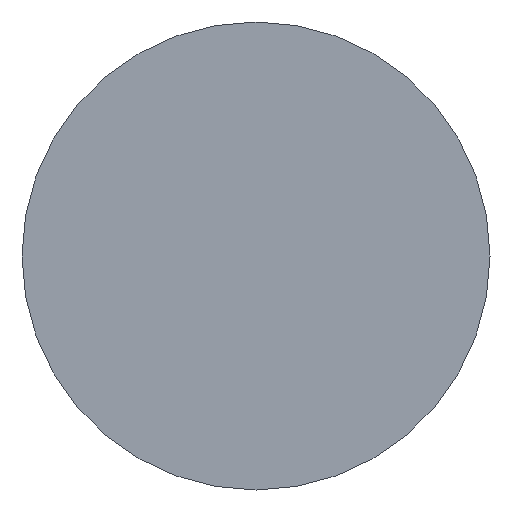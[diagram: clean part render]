
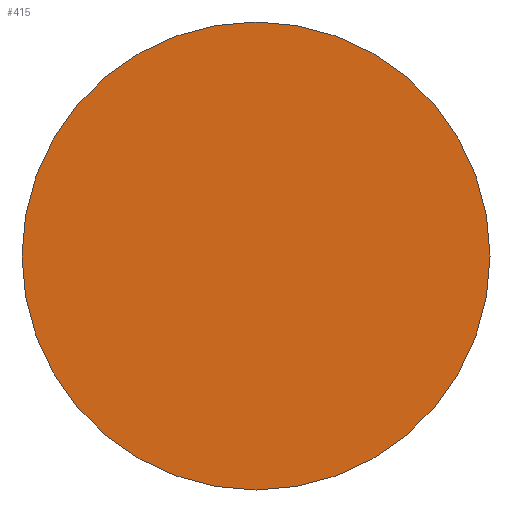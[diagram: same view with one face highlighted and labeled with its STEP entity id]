
A CAD part, left-side view. The second image highlights one B-rep face of the part: STEP entity #415.
In plain terms, the highlighted planar face has unit normal (-1, 0, 0).
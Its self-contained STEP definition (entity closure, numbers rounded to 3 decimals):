
#121 = ORIENTED_EDGE ( 'NONE', *, *, #1182, .T. ) ;
#127 = EDGE_CURVE ( 'NONE', #229, #226, #510, .T. ) ;
#140 = AXIS2_PLACEMENT_3D ( 'NONE', #576, #478, #969 ) ;
#161 = CARTESIAN_POINT ( 'NONE',  ( 7.1, 0., 45.95 ) ) ;
#187 = AXIS2_PLACEMENT_3D ( 'NONE', #552, #1238, #1144 ) ;
#226 = VERTEX_POINT ( 'NONE', #161 ) ;
#229 = VERTEX_POINT ( 'NONE', #957 ) ;
#255 = FACE_OUTER_BOUND ( 'NONE', #1194, .T. ) ;
#415 = ADVANCED_FACE ( 'NONE', ( #255 ), #687, .T. ) ;
#478 = DIRECTION ( 'NONE',  ( -1., 0., 0. ) ) ;
#480 = CARTESIAN_POINT ( 'NONE',  ( 7.1, 0., 0. ) ) ;
#510 = CIRCLE ( 'NONE', #187, 45.95 ) ;
#552 = CARTESIAN_POINT ( 'NONE',  ( 7.1, 0., 0. ) ) ;
#576 = CARTESIAN_POINT ( 'NONE',  ( 7.1, 0., 0. ) ) ;
#585 = DIRECTION ( 'NONE',  ( -1., 0., 0. ) ) ;
#687 = PLANE ( 'NONE',  #740 ) ;
#740 = AXIS2_PLACEMENT_3D ( 'NONE', #480, #585, #1092 ) ;
#957 = CARTESIAN_POINT ( 'NONE',  ( 7.1, 0., -45.95 ) ) ;
#969 = DIRECTION ( 'NONE',  ( 0., 0., 1. ) ) ;
#974 = CIRCLE ( 'NONE', #140, 45.95 ) ;
#1092 = DIRECTION ( 'NONE',  ( 0., 0., -1. ) ) ;
#1144 = DIRECTION ( 'NONE',  ( 0., 0., 1. ) ) ;
#1182 = EDGE_CURVE ( 'NONE', #226, #229, #974, .T. ) ;
#1189 = ORIENTED_EDGE ( 'NONE', *, *, #127, .T. ) ;
#1194 = EDGE_LOOP ( 'NONE', ( #121, #1189 ) ) ;
#1238 = DIRECTION ( 'NONE',  ( -1., 0., 0. ) ) ;
